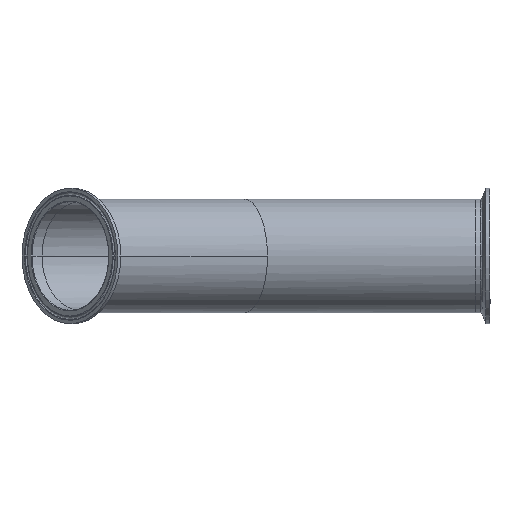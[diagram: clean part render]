
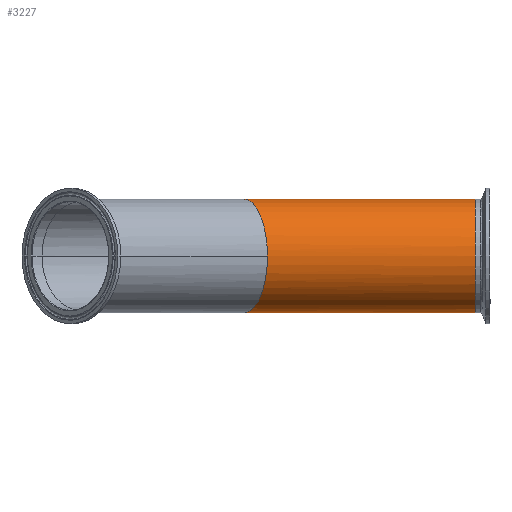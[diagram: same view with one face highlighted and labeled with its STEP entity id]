
A CAD part, left-side view. The second image highlights one B-rep face of the part: STEP entity #3227.
In plain terms, the highlighted cylindrical face has radius 38.1 mm (diameter 76.2 mm), a partial arc.
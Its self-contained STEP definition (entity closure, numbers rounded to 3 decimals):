
#59 = CARTESIAN_POINT ( 'NONE',  ( 0., -155.1, -38.1 ) ) ;
#217 = ORIENTED_EDGE ( 'NONE', *, *, #3857, .F. ) ;
#223 = CARTESIAN_POINT ( 'NONE',  ( 0., -155.1, -38.1 ) ) ;
#296 = EDGE_CURVE ( 'NONE', #1366, #1702, #2493, .T. ) ;
#383 =( BOUNDED_CURVE ( )  B_SPLINE_CURVE ( 3, ( #2618, #2259, #3313, #1176 ),
 .UNSPECIFIED., .F., .F. ) 
 B_SPLINE_CURVE_WITH_KNOTS ( ( 4, 4 ),
 ( 1.571, 3.142 ),
 .UNSPECIFIED. ) 
 CURVE ( )  GEOMETRIC_REPRESENTATION_ITEM ( )  RATIONAL_B_SPLINE_CURVE ( ( 1., 0.805, 0.805, 1. ) ) 
 REPRESENTATION_ITEM ( '' )  );
#425 = CARTESIAN_POINT ( 'NONE',  ( 0., -155.1, 38.1 ) ) ;
#533 = CARTESIAN_POINT ( 'NONE',  ( 0., -155.1, 0. ) ) ;
#625 = DIRECTION ( 'NONE',  ( 0., 1., 0. ) ) ;
#714 = ORIENTED_EDGE ( 'NONE', *, *, #2870, .T. ) ;
#904 = DIRECTION ( 'NONE',  ( 0., 0., 1. ) ) ;
#989 = VECTOR ( 'NONE', #4320, 1000. ) ;
#998 = EDGE_CURVE ( 'NONE', #1907, #2754, #2063, .T. ) ;
#1176 = CARTESIAN_POINT ( 'NONE',  ( -38.1, -15.782, 0. ) ) ;
#1366 = VERTEX_POINT ( 'NONE', #1973 ) ;
#1376 = VERTEX_POINT ( 'NONE', #4392 ) ;
#1495 = CYLINDRICAL_SURFACE ( 'NONE', #2607, 38.1 ) ;
#1577 = ORIENTED_EDGE ( 'NONE', *, *, #296, .T. ) ;
#1662 = LINE ( 'NONE', #59, #2604 ) ;
#1702 = VERTEX_POINT ( 'NONE', #4493 ) ;
#1907 = VERTEX_POINT ( 'NONE', #223 ) ;
#1918 = CARTESIAN_POINT ( 'NONE',  ( 0., -155.1, 38.1 ) ) ;
#1962 = LINE ( 'NONE', #1918, #989 ) ;
#1973 = CARTESIAN_POINT ( 'NONE',  ( -38.1, -15.782, 0. ) ) ;
#2051 = ORIENTED_EDGE ( 'NONE', *, *, #998, .T. ) ;
#2063 = CIRCLE ( 'NONE', #2985, 38.1 ) ;
#2086 = CARTESIAN_POINT ( 'NONE',  ( 0., -155.1, 0. ) ) ;
#2259 = CARTESIAN_POINT ( 'NONE',  ( -22.318, -9.245, 38.1 ) ) ;
#2293 = EDGE_LOOP ( 'NONE', ( #217, #2051, #714, #3485, #1577 ) ) ;
#2493 =( BOUNDED_CURVE ( )  B_SPLINE_CURVE ( 3, ( #2867, #3097, #3441, #2852 ),
 .UNSPECIFIED., .F., .T. ) 
 B_SPLINE_CURVE_WITH_KNOTS ( ( 4, 4 ),
 ( 3.142, 4.712 ),
 .UNSPECIFIED. ) 
 CURVE ( )  GEOMETRIC_REPRESENTATION_ITEM ( )  RATIONAL_B_SPLINE_CURVE ( ( 1., 0.805, 0.805, 1. ) ) 
 REPRESENTATION_ITEM ( '' )  );
#2604 = VECTOR ( 'NONE', #3626, 1000. ) ;
#2607 = AXIS2_PLACEMENT_3D ( 'NONE', #2086, #625, #4146 ) ;
#2618 = CARTESIAN_POINT ( 'NONE',  ( 0., 0., 38.1 ) ) ;
#2754 = VERTEX_POINT ( 'NONE', #425 ) ;
#2852 = CARTESIAN_POINT ( 'NONE',  ( 0., 0., -38.1 ) ) ;
#2867 = CARTESIAN_POINT ( 'NONE',  ( -38.1, -15.782, 0. ) ) ;
#2870 = EDGE_CURVE ( 'NONE', #2754, #1376, #1962, .T. ) ;
#2985 = AXIS2_PLACEMENT_3D ( 'NONE', #533, #3062, #904 ) ;
#3062 = DIRECTION ( 'NONE',  ( 0., 1., 0. ) ) ;
#3097 = CARTESIAN_POINT ( 'NONE',  ( -38.1, -15.782, -22.318 ) ) ;
#3227 = ADVANCED_FACE ( 'NONE', ( #4265 ), #1495, .T. ) ;
#3313 = CARTESIAN_POINT ( 'NONE',  ( -38.1, -15.782, 22.318 ) ) ;
#3441 = CARTESIAN_POINT ( 'NONE',  ( -22.318, -9.245, -38.1 ) ) ;
#3485 = ORIENTED_EDGE ( 'NONE', *, *, #3921, .T. ) ;
#3626 = DIRECTION ( 'NONE',  ( 0., 1., 0. ) ) ;
#3857 = EDGE_CURVE ( 'NONE', #1907, #1702, #1662, .T. ) ;
#3921 = EDGE_CURVE ( 'NONE', #1376, #1366, #383, .T. ) ;
#4146 = DIRECTION ( 'NONE',  ( 0., 0., 1. ) ) ;
#4265 = FACE_OUTER_BOUND ( 'NONE', #2293, .T. ) ;
#4320 = DIRECTION ( 'NONE',  ( 0., 1., 0. ) ) ;
#4392 = CARTESIAN_POINT ( 'NONE',  ( 0., 0., 38.1 ) ) ;
#4493 = CARTESIAN_POINT ( 'NONE',  ( 0., 0., -38.1 ) ) ;
